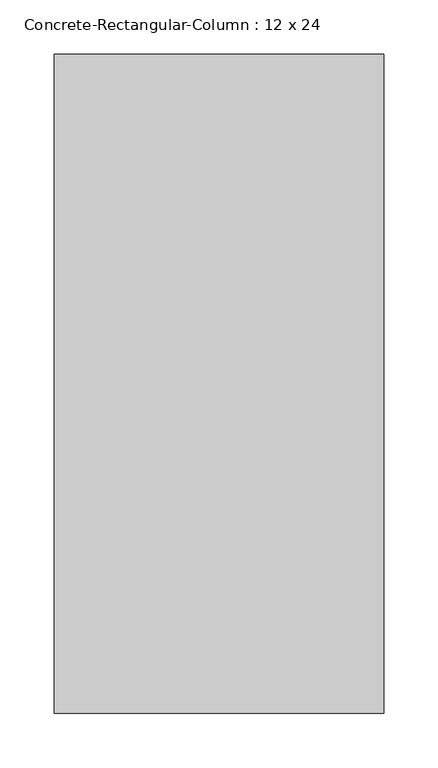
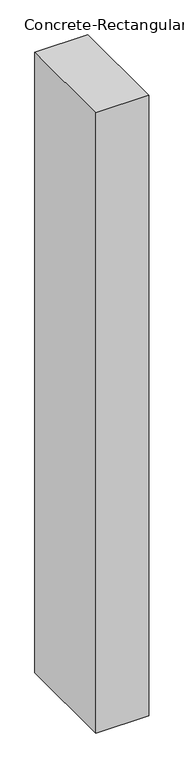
"""IFC4 building model written with IfcOpenShell, lengths in millimetres: column geometry, Concrete-Rectangular-Column : 12 x 24."""

from ifc_helpers import new_model, si_unit, origin, origin_with_axes, place, context, project, spatial, polyline, outline, extrude, source, transform, mapped, element, save


def concrete_rectangular_column_12_x_24_13f89b02(model_context):
    return source(origin(), model_context, "Body", "SweptSolid", [
        extrude(outline(polyline([(152.4, 304.8), (152.4, -304.8), (-152.4, -304.8), (-152.4, 304.8), (152.4, 304.8)])), origin_with_axes(), (0.0, 0.0, 1.0), 3784.6),
    ])


if __name__ == "__main__":
    model = new_model("IFC4")
    model_context = context("Model", 3, world=origin())
    ifc_project = project(units=[si_unit("LENGTHUNIT", "METRE", prefix="MILLI")], contexts=[model_context])
    site = spatial("IfcSite", under=ifc_project)
    building = spatial("IfcBuilding", under=site)
    placement = place(None, origin())
    concrete_rectangular_column_12_x_24_shape = concrete_rectangular_column_12_x_24_13f89b02(model_context)
    element("IfcColumn", 1, ObjectType="Concrete-Rectangular-Column : 12 x 24", at=placement, inside=building, context=model_context, shape_type="MappedRepresentation", body=[
        mapped(concrete_rectangular_column_12_x_24_shape, transform((0.0, 0.0, 0.0), x_axis=(1.0, 0.0, 0.0), y_axis=(0.0, 1.0, 0.0), z_axis=(0.0, 0.0, 1.0))),
    ])
    save(model, "model.ifc")
